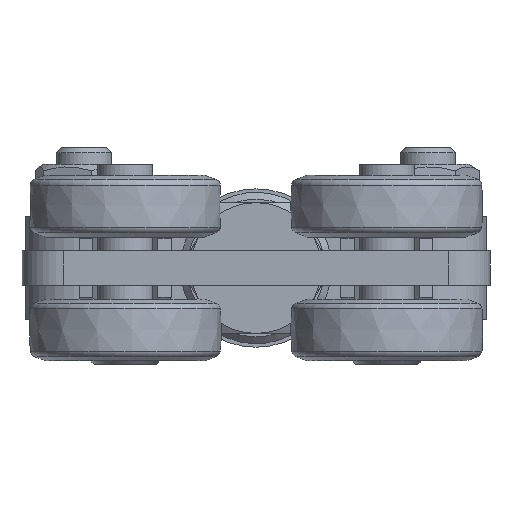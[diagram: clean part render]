
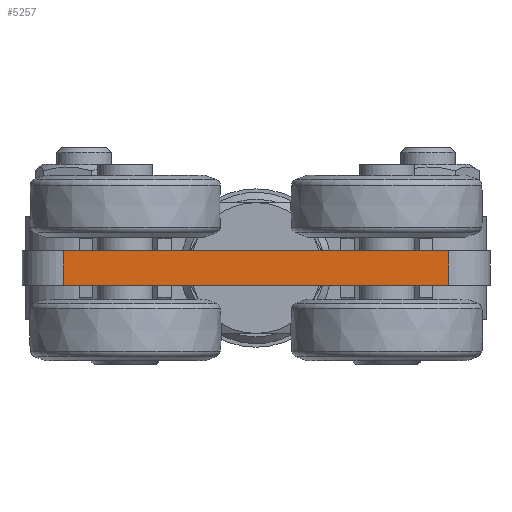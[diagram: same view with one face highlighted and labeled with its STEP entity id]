
A CAD part, front view. The second image highlights one B-rep face of the part: STEP entity #5257.
In plain terms, the highlighted planar face has unit normal (0, -1, 0) as drawn and (0, 1, 0) by its records, which use the part's own axes.
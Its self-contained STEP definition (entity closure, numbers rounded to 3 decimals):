
#408=PLANE('',#5627);
#581=FACE_OUTER_BOUND('',#903,.T.);
#903=EDGE_LOOP('',(#3765,#3766,#3767,#3768));
#1357=LINE('',#8098,#1743);
#1358=LINE('',#8102,#1744);
#1359=LINE('',#8104,#1745);
#1360=LINE('',#8105,#1746);
#1743=VECTOR('',#6428,5.);
#1744=VECTOR('',#6433,56.);
#1745=VECTOR('',#6434,5.);
#1746=VECTOR('',#6435,56.);
#2414=VERTEX_POINT('',#8095);
#2415=VERTEX_POINT('',#8097);
#2416=VERTEX_POINT('',#8101);
#2417=VERTEX_POINT('',#8103);
#2972=EDGE_CURVE('',#2415,#2414,#1357,.T.);
#2974=EDGE_CURVE('',#2414,#2416,#1358,.T.);
#2975=EDGE_CURVE('',#2417,#2416,#1359,.T.);
#2976=EDGE_CURVE('',#2417,#2415,#1360,.T.);
#3765=ORIENTED_EDGE('',*,*,#2974,.T.);
#3766=ORIENTED_EDGE('',*,*,#2975,.F.);
#3767=ORIENTED_EDGE('',*,*,#2976,.T.);
#3768=ORIENTED_EDGE('',*,*,#2972,.T.);
#5257=ADVANCED_FACE('',(#581),#408,.T.);
#5627=AXIS2_PLACEMENT_3D('',#8100,#6431,#6432);
#6428=DIRECTION('',(0.,0.,1.));
#6431=DIRECTION('center_axis',(0.,1.,0.));
#6432=DIRECTION('ref_axis',(0.,0.,1.));
#6433=DIRECTION('',(1.,0.,0.));
#6434=DIRECTION('',(0.,0.,1.));
#6435=DIRECTION('',(-1.,0.,0.));
#8095=CARTESIAN_POINT('',(-28.,12.,5.));
#8097=CARTESIAN_POINT('',(-28.,12.,0.));
#8098=CARTESIAN_POINT('',(-28.,12.,0.));
#8100=CARTESIAN_POINT('Origin',(-28.,12.,0.));
#8101=CARTESIAN_POINT('',(28.,12.,5.));
#8102=CARTESIAN_POINT('',(28.,12.,5.));
#8103=CARTESIAN_POINT('',(28.,12.,0.));
#8104=CARTESIAN_POINT('',(28.,12.,0.));
#8105=CARTESIAN_POINT('',(28.,12.,0.));
